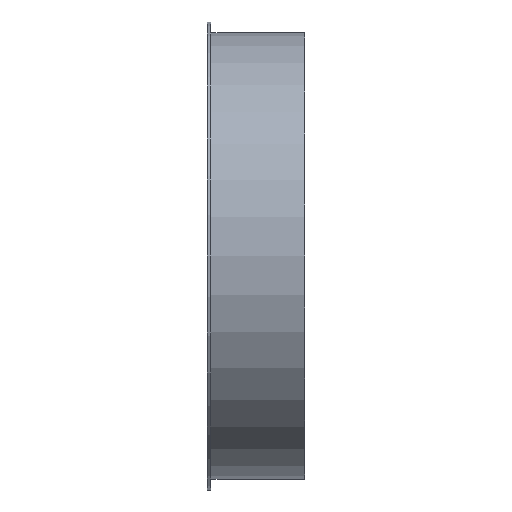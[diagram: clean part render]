
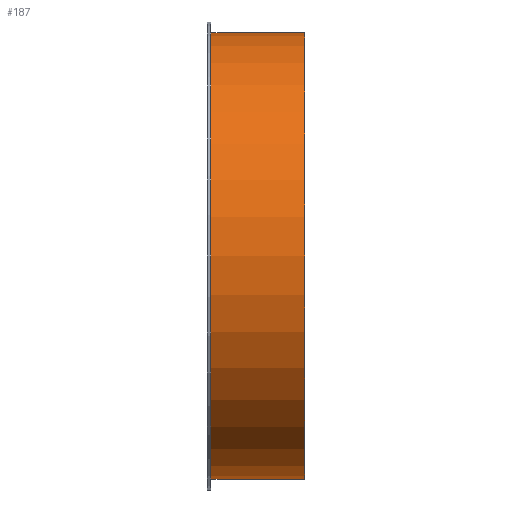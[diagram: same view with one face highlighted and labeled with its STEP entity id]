
A CAD part, front view. The second image highlights one B-rep face of the part: STEP entity #187.
In plain terms, the highlighted cylindrical face has radius 126.5 mm (diameter 253 mm), a full revolution.
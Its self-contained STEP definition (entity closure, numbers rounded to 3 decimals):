
#112=CARTESIAN_POINT('',(-15.,0.,0.0));
#113=VERTEX_POINT('',#112);
#114=CARTESIAN_POINT('',(-15.,126.5,0.0));
#115=DIRECTION('',(-1.0,0.0,0.0));
#116=DIRECTION('',(0.0,-1.0,0.0));
#117=AXIS2_PLACEMENT_3D('',#114,#115,#116);
#118=CIRCLE('',#117,126.5);
#119=EDGE_CURVE('',#113,#113,#118,.T.);
#161=CARTESIAN_POINT('',(38.0,0.,0.0));
#162=VERTEX_POINT('',#161);
#163=CARTESIAN_POINT('',(38.,126.5,0.0));
#164=DIRECTION('',(-1.0,0.0,0.0));
#165=DIRECTION('',(0.0,-1.0,0.0));
#166=AXIS2_PLACEMENT_3D('',#163,#164,#165);
#167=CIRCLE('',#166,126.5);
#168=EDGE_CURVE('',#162,#162,#167,.T.);
#176=CARTESIAN_POINT('',(11.5,126.5,0.0));
#177=DIRECTION('',(-1.0,0.,0.0));
#178=DIRECTION('',(0.0,-1.0,0.0));
#179=AXIS2_PLACEMENT_3D('',#176,#177,#178);
#180=CYLINDRICAL_SURFACE('',#179,126.5);
#181=ORIENTED_EDGE('',*,*,#119,.F.);
#182=EDGE_LOOP('',(#181));
#183=FACE_OUTER_BOUND('',#182,.T.);
#184=ORIENTED_EDGE('',*,*,#168,.T.);
#185=EDGE_LOOP('',(#184));
#186=FACE_BOUND('',#185,.T.);
#187=ADVANCED_FACE('',(#183,#186),#180,.T.);
